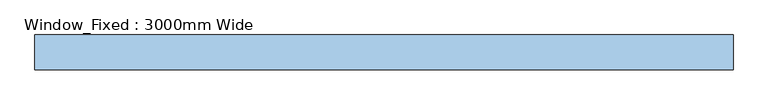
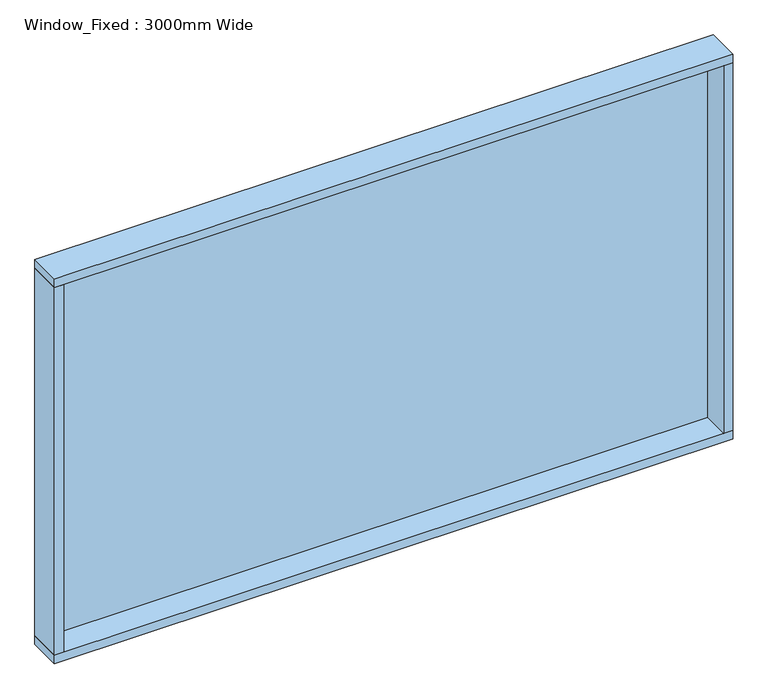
"""IFC4 building model written with IfcOpenShell, lengths in millimetres: window geometry, Window_Fixed : 3000mm Wide."""

from ifc_helpers import new_model, si_unit, frame, origin, place, context, project, spatial, polyline, outline, extrude, source, transform, mapped, element, save


def window_fixed_3000mm_wide_c56ea942(model_context):
    return source(origin(), model_context, "Body", "SweptSolid", [
        extrude(outline(polyline([(1460.0, 85.0), (1460.0, 73.0), (-1460.0, 73.0), (-1460.0, 85.0), (1460.0, 85.0)])), frame((0.0, 0.0, 290.0), z_axis=(0.0, 0.0, 1.0), x_axis=(1.0, 0.0, 0.0)), (0.0, 0.0, 1.0), 1720.0),
        extrude(outline(polyline([(1500.0, 100.0), (1500.0, -50.0), (-1500.0, -50.0), (-1500.0, 100.0), (1500.0, 100.0)])), frame((0.0, 0.0, 2010.0), z_axis=(0.0, 0.0, 1.0), x_axis=(1.0, 0.0, 0.0)), (0.0, 0.0, 1.0), 40.0),
        extrude(outline(polyline([(1500.0, 100.0), (1500.0, -50.0), (-1500.0, -50.0), (-1500.0, 100.0), (1500.0, 100.0)])), frame((0.0, 0.0, 250.0), z_axis=(0.0, 0.0, 1.0), x_axis=(1.0, 0.0, 0.0)), (0.0, 0.0, 1.0), 40.0),
        extrude(outline(polyline([(-1460.0, -50.0), (-1500.0, -50.0), (-1500.0, 100.0), (-1460.0, 100.0), (-1460.0, -50.0)])), frame((0.0, 0.0, 290.0), z_axis=(0.0, 0.0, 1.0), x_axis=(1.0, 0.0, 0.0)), (0.0, 0.0, 1.0), 1720.0),
        extrude(outline(polyline([(1460.0, -50.0), (1460.0, 100.0), (1500.0, 100.0), (1500.0, -50.0), (1460.0, -50.0)])), frame((0.0, 0.0, 290.0), z_axis=(0.0, 0.0, 1.0), x_axis=(1.0, 0.0, 0.0)), (0.0, 0.0, 1.0), 1720.0),
    ])


if __name__ == "__main__":
    model = new_model("IFC4")
    model_context = context("Model", 3, world=origin())
    ifc_project = project(units=[si_unit("LENGTHUNIT", "METRE", prefix="MILLI")], contexts=[model_context])
    site = spatial("IfcSite", under=ifc_project)
    building = spatial("IfcBuilding", under=site)
    placement = place(None, origin())
    window_fixed_3000mm_wide_shape = window_fixed_3000mm_wide_c56ea942(model_context)
    element("IfcWindow", 1, ObjectType="Window_Fixed : 3000mm Wide", at=placement, inside=building, context=model_context, shape_type="MappedRepresentation", body=[
        mapped(window_fixed_3000mm_wide_shape, transform((0.0, 0.0, 0.0), x_axis=(1.0, 0.0, 0.0), y_axis=(0.0, 1.0, 0.0), z_axis=(0.0, 0.0, 1.0))),
    ])
    save(model, "model.ifc")
